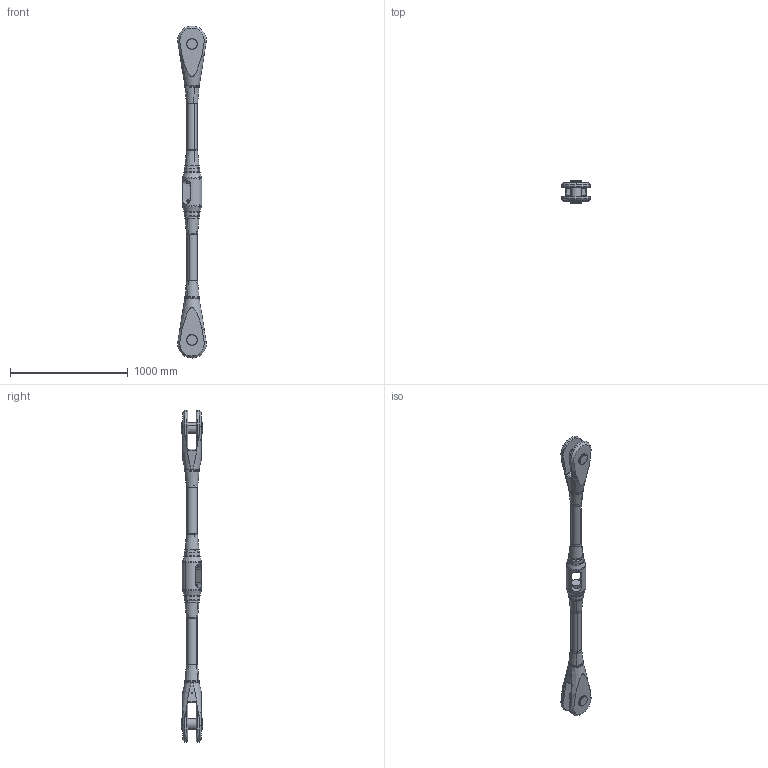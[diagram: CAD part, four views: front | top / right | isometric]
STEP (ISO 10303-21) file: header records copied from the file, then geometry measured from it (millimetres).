
FILE_DESCRIPTION (( 'STEP AP203' ), '1' );
FILE_NAME ('M85 G+AB+K.STEP', '2018-02-14T14:09:59', ( 'install' ), ( 'Hewlett-Packard Company' ), 'SwSTEP 2.0', 'SolidWorks 2017', '' );
FILE_SCHEMA (( 'CONFIG_CONTROL_DESIGN' ));
Length unit declared in the file: millimetre
Products named in the file (6): M85 G+AB+K; Abdeckhülse_generisch_M85; Kreuzmuffe_M85; Zugstab_M85; Bolzen SicherungsringVarB_generisch_M85; Gabelkopf Kunde_M85
Assembly tree (11 placements, depth 2):
  M85 G+AB+K
    Gabelkopf Kunde_M85  x2
    Abdeckhülse_generisch_M85  x4
    Kreuzmuffe_M85
    Zugstab_M85  x2
    Bolzen SicherungsringVarB_generisch_M85  x2
Bounding box: 242.98 x 183.2 x 2816 mm (x, y, z)
Volume: 34082180.5 mm3; surface area: 2338415.7 mm2
Topology: 11 solids, 11 shells, 320 faces, 778 edges, 470 vertices
Faces by surface type: cylinder 158, plane 74, cone 54, torus 26, bspline 8
Entity records: 6930 total; most frequent: CARTESIAN_POINT 2651, DIRECTION 758, ORIENTED_EDGE 722, EDGE_CURVE 361, AXIS2_PLACEMENT_3D 319, VERTEX_POINT 214, EDGE_LOOP 173, CIRCLE 157
